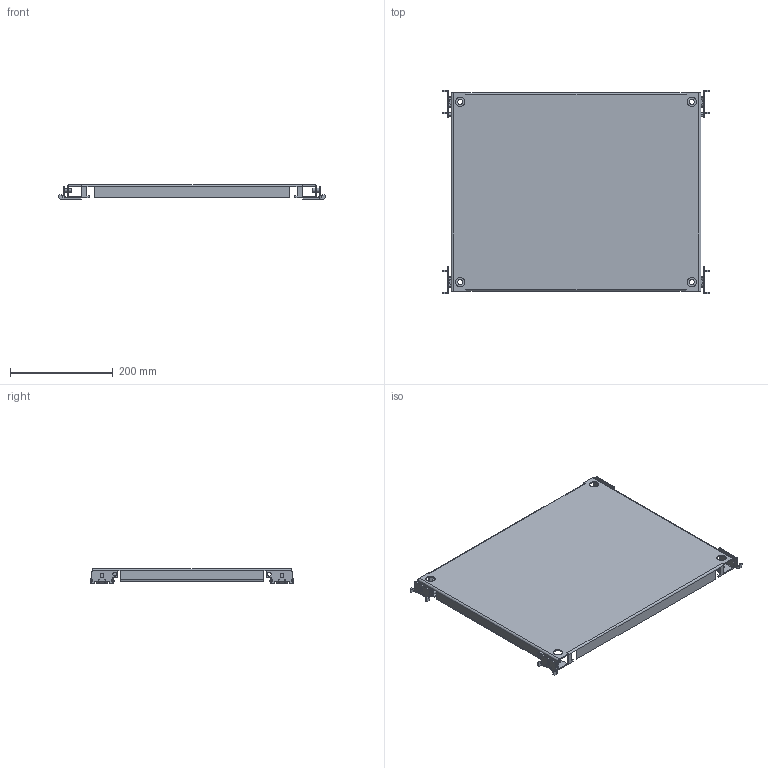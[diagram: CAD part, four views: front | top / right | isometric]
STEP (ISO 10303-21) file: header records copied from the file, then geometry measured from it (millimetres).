
FILE_DESCRIPTION (( 'STEP AP203' ), '1' );
FILE_NAME ('EUPZ-060050.step', '2015-11-24T08:38:33', ( 'Admin' ), ( '' ), 'SwSTEP 2.0', 'SolidWorks 2015', '' );
FILE_SCHEMA (( 'CONFIG_CONTROL_DESIGN' ));
Length unit declared in the file: millimetre
Products named in the file (9): AR_Squadretta_fissaggio_piastra_parziale_ENUX_SX; AR_Montaggio_squadretta_fissaggio_piastra_parziale_ENUX_SX_SUP_CON_PERNO; AR_Squadretta_fissaggio_piastra_parziale_ENUX_DX; AR_Montaggio_squadretta_fissaggio_piastra_parziale_ENUX_DX_SUP_CON_PERNO; AR_Montaggio_squadretta_fissaggio_piastra_parziale_ENUX_DX_INF_SENZA_PERNO; AR_Montaggio_squadretta_fissaggio_piastra_parziale_ENUX_SX_INF_SENZA_PERNO; Perno_squadretta_piastra_parziale_ENUX; EUPZ-060050; AR_Piastra_parziale_ENUX_0600x0500
Assembly tree (11 placements, depth 3):
  EUPZ-060050
    AR_Piastra_parziale_ENUX_0600x0500
    AR_Montaggio_squadretta_fissaggio_piastra_parziale_ENUX_SX_SUP_CON_PERNO
      AR_Squadretta_fissaggio_piastra_parziale_ENUX_SX
    AR_Montaggio_squadretta_fissaggio_piastra_parziale_ENUX_DX_SUP_CON_PERNO
      AR_Squadretta_fissaggio_piastra_parziale_ENUX_DX
    AR_Montaggio_squadretta_fissaggio_piastra_parziale_ENUX_DX_INF_SENZA_PERNO
      AR_Squadretta_fissaggio_piastra_parziale_ENUX_SX
    AR_Montaggio_squadretta_fissaggio_piastra_parziale_ENUX_SX_INF_SENZA_PERNO
      AR_Squadretta_fissaggio_piastra_parziale_ENUX_DX
    Perno_squadretta_piastra_parziale_ENUX  x2
Bounding box: 517 x 395.5 x 27.5 mm (x, y, z)
Volume: 603642.9 mm3; surface area: 494122.5 mm2
Topology: 7 solids, 7 shells, 550 faces, 1412 edges, 876 vertices
Faces by surface type: plane 362, cylinder 180, cone 8
Entity records: 11667 total; most frequent: CARTESIAN_POINT 1906, DIRECTION 1844, ORIENTED_EDGE 1808, EDGE_CURVE 904, LINE 672, VECTOR 672, AXIS2_PLACEMENT_3D 586, VERTEX_POINT 552
